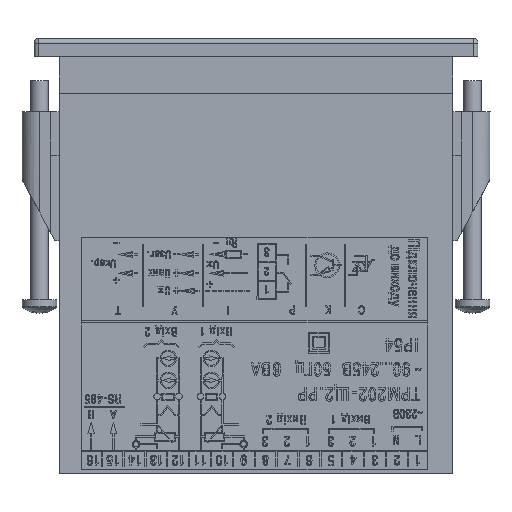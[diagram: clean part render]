
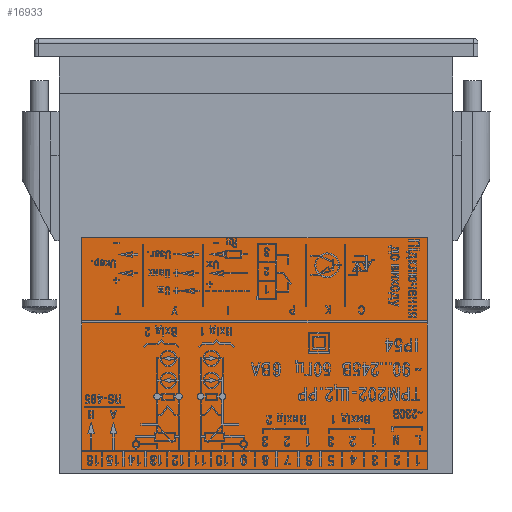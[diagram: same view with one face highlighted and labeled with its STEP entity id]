
A CAD part, front view. The second image highlights one B-rep face of the part: STEP entity #16933.
In plain terms, the highlighted planar face has unit normal (0, -1, 0).
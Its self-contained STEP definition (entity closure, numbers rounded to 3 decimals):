
#2049 = CARTESIAN_POINT ( 'NONE',  ( -39.862, -20.6, -98.5 ) ) ;
#2638 = CARTESIAN_POINT ( 'NONE',  ( -39.862, -20.6, -45.5 ) ) ;
#12304 = EDGE_LOOP ( 'NONE', ( #124617, #79649, #58895, #199515 ) ) ;
#16933 = ADVANCED_FACE ( 'NONE', ( #104520 ), #22334, .T. ) ;
#19749 = VECTOR ( 'NONE', #193709, 1000. ) ;
#22334 = PLANE ( 'NONE',  #94785 ) ;
#40024 = VECTOR ( 'NONE', #139543, 1000. ) ;
#51222 = LINE ( 'NONE', #106260, #187984 ) ;
#56170 = CARTESIAN_POINT ( 'NONE',  ( 0., -20.6, 0. ) ) ;
#56768 = EDGE_CURVE ( 'NONE', #68602, #178065, #168211, .T. ) ;
#57776 = LINE ( 'NONE', #2638, #19749 ) ;
#58895 = ORIENTED_EDGE ( 'NONE', *, *, #60646, .T. ) ;
#59264 = EDGE_CURVE ( 'NONE', #194002, #68602, #51222, .T. ) ;
#60646 = EDGE_CURVE ( 'NONE', #178065, #177825, #57776, .T. ) ;
#61458 = DIRECTION ( 'NONE',  ( -1., 0., 0. ) ) ;
#68602 = VERTEX_POINT ( 'NONE', #194507 ) ;
#70794 = DIRECTION ( 'NONE',  ( 0., 0., -1. ) ) ;
#71918 = DIRECTION ( 'NONE',  ( 0., -1., 0. ) ) ;
#79649 = ORIENTED_EDGE ( 'NONE', *, *, #56768, .T. ) ;
#94785 = AXIS2_PLACEMENT_3D ( 'NONE', #56170, #71918, #70794 ) ;
#104520 = FACE_OUTER_BOUND ( 'NONE', #12304, .T. ) ;
#106260 = CARTESIAN_POINT ( 'NONE',  ( 39.138, -20.6, -45.5 ) ) ;
#119251 = LINE ( 'NONE', #173244, #40024 ) ;
#122121 = CARTESIAN_POINT ( 'NONE',  ( -39.862, -20.6, -45.5 ) ) ;
#124617 = ORIENTED_EDGE ( 'NONE', *, *, #59264, .T. ) ;
#137810 = DIRECTION ( 'NONE',  ( 0., 0., 1. ) ) ;
#139543 = DIRECTION ( 'NONE',  ( 1., 0., 0. ) ) ;
#164139 = EDGE_CURVE ( 'NONE', #177825, #194002, #119251, .T. ) ;
#166887 = CARTESIAN_POINT ( 'NONE',  ( 39.138, -20.6, -98.5 ) ) ;
#168211 = LINE ( 'NONE', #183896, #193942 ) ;
#173244 = CARTESIAN_POINT ( 'NONE',  ( -39.862, -20.6, -98.5 ) ) ;
#177825 = VERTEX_POINT ( 'NONE', #2049 ) ;
#178065 = VERTEX_POINT ( 'NONE', #122121 ) ;
#183896 = CARTESIAN_POINT ( 'NONE',  ( -39.862, -20.6, -45.5 ) ) ;
#187984 = VECTOR ( 'NONE', #137810, 1000. ) ;
#193709 = DIRECTION ( 'NONE',  ( 0., 0., -1. ) ) ;
#193942 = VECTOR ( 'NONE', #61458, 1000. ) ;
#194002 = VERTEX_POINT ( 'NONE', #166887 ) ;
#194507 = CARTESIAN_POINT ( 'NONE',  ( 39.138, -20.6, -45.5 ) ) ;
#199515 = ORIENTED_EDGE ( 'NONE', *, *, #164139, .T. ) ;
